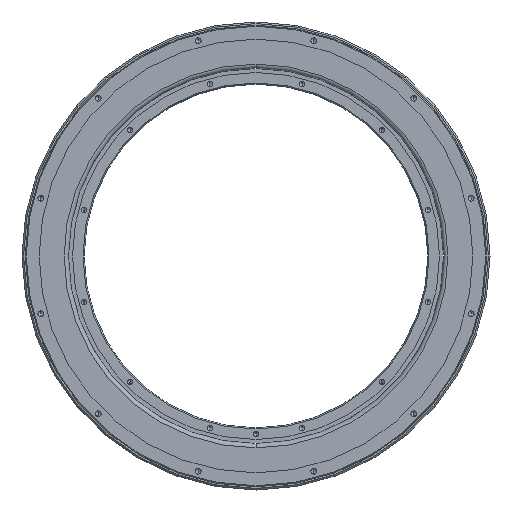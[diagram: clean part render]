
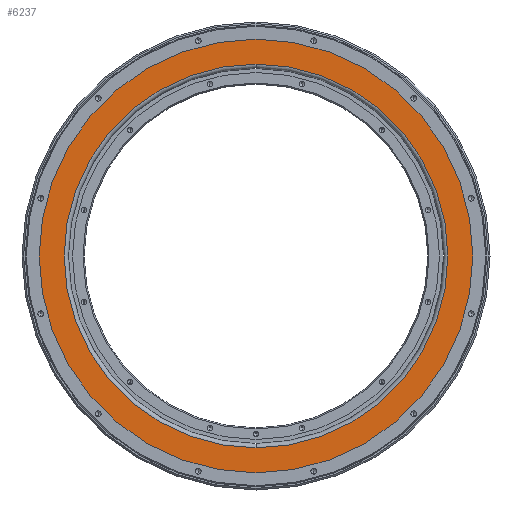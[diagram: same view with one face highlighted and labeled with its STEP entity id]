
A CAD part, front view. The second image highlights one B-rep face of the part: STEP entity #6237.
In plain terms, the highlighted planar face has unit normal (0, -1, 0).
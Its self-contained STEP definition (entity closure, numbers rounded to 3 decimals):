
#18 = DIRECTION ( 'NONE',  ( 0., 0., 1. ) ) ;
#54 = DIRECTION ( 'NONE',  ( 0., 1., 0. ) ) ;
#75 = AXIS2_PLACEMENT_3D ( 'NONE', #9423, #54, #18 ) ;
#589 = ORIENTED_EDGE ( 'NONE', *, *, #3270, .T. ) ;
#625 = PLANE ( 'NONE',  #4380 ) ;
#1322 = DIRECTION ( 'NONE',  ( 0., 1., 0. ) ) ;
#1740 = AXIS2_PLACEMENT_3D ( 'NONE', #7831, #5576, #8578 ) ;
#2653 = CARTESIAN_POINT ( 'NONE',  ( 0., 3., -234.5 ) ) ;
#2724 = VERTEX_POINT ( 'NONE', #8044 ) ;
#2790 = EDGE_CURVE ( 'NONE', #8394, #4727, #6089, .T. ) ;
#2801 = CIRCLE ( 'NONE', #1740, 265. ) ;
#3270 = EDGE_CURVE ( 'NONE', #4727, #8394, #6681, .T. ) ;
#3662 = FACE_BOUND ( 'NONE', #4225, .T. ) ;
#4225 = EDGE_LOOP ( 'NONE', ( #589, #7168 ) ) ;
#4297 = AXIS2_PLACEMENT_3D ( 'NONE', #6585, #7219, #9390 ) ;
#4380 = AXIS2_PLACEMENT_3D ( 'NONE', #9432, #1322, #4995 ) ;
#4564 = EDGE_CURVE ( 'NONE', #6813, #2724, #2801, .T. ) ;
#4727 = VERTEX_POINT ( 'NONE', #6535 ) ;
#4995 = DIRECTION ( 'NONE',  ( 0., 0., 1. ) ) ;
#5307 = EDGE_CURVE ( 'NONE', #2724, #6813, #7547, .T. ) ;
#5576 = DIRECTION ( 'NONE',  ( 0., -1., 0. ) ) ;
#5608 = CARTESIAN_POINT ( 'NONE',  ( 0., 3., 265. ) ) ;
#6089 = CIRCLE ( 'NONE', #75, 234.5 ) ;
#6237 = ADVANCED_FACE ( 'NONE', ( #3662, #8074 ), #625, .F. ) ;
#6535 = CARTESIAN_POINT ( 'NONE',  ( 0., 3., 234.5 ) ) ;
#6585 = CARTESIAN_POINT ( 'NONE',  ( 0., 3., 0. ) ) ;
#6681 = CIRCLE ( 'NONE', #8638, 234.5 ) ;
#6813 = VERTEX_POINT ( 'NONE', #5608 ) ;
#7168 = ORIENTED_EDGE ( 'NONE', *, *, #2790, .T. ) ;
#7189 = DIRECTION ( 'NONE',  ( 0., 0., 1. ) ) ;
#7219 = DIRECTION ( 'NONE',  ( 0., -1., 0. ) ) ;
#7547 = CIRCLE ( 'NONE', #4297, 265. ) ;
#7831 = CARTESIAN_POINT ( 'NONE',  ( 0., 3., 0. ) ) ;
#8044 = CARTESIAN_POINT ( 'NONE',  ( 0., 3., -265. ) ) ;
#8074 = FACE_OUTER_BOUND ( 'NONE', #9020, .T. ) ;
#8394 = VERTEX_POINT ( 'NONE', #2653 ) ;
#8578 = DIRECTION ( 'NONE',  ( 0., 0., -1. ) ) ;
#8638 = AXIS2_PLACEMENT_3D ( 'NONE', #8665, #9359, #7189 ) ;
#8665 = CARTESIAN_POINT ( 'NONE',  ( 0., 3., 0. ) ) ;
#8667 = ORIENTED_EDGE ( 'NONE', *, *, #4564, .T. ) ;
#8985 = ORIENTED_EDGE ( 'NONE', *, *, #5307, .T. ) ;
#9020 = EDGE_LOOP ( 'NONE', ( #8985, #8667 ) ) ;
#9359 = DIRECTION ( 'NONE',  ( 0., 1., 0. ) ) ;
#9390 = DIRECTION ( 'NONE',  ( 0., 0., -1. ) ) ;
#9423 = CARTESIAN_POINT ( 'NONE',  ( 0., 3., 0. ) ) ;
#9432 = CARTESIAN_POINT ( 'NONE',  ( -265., 3., 0. ) ) ;
